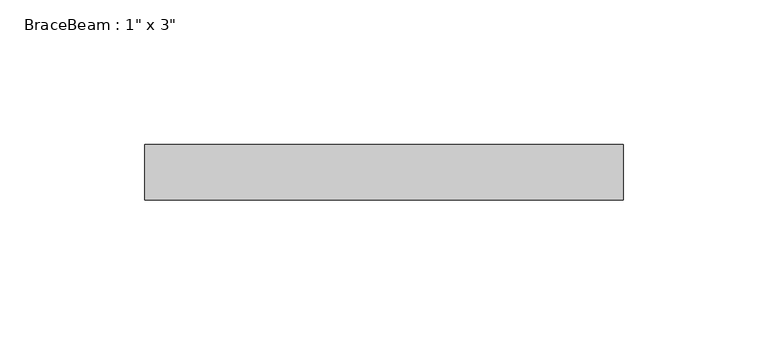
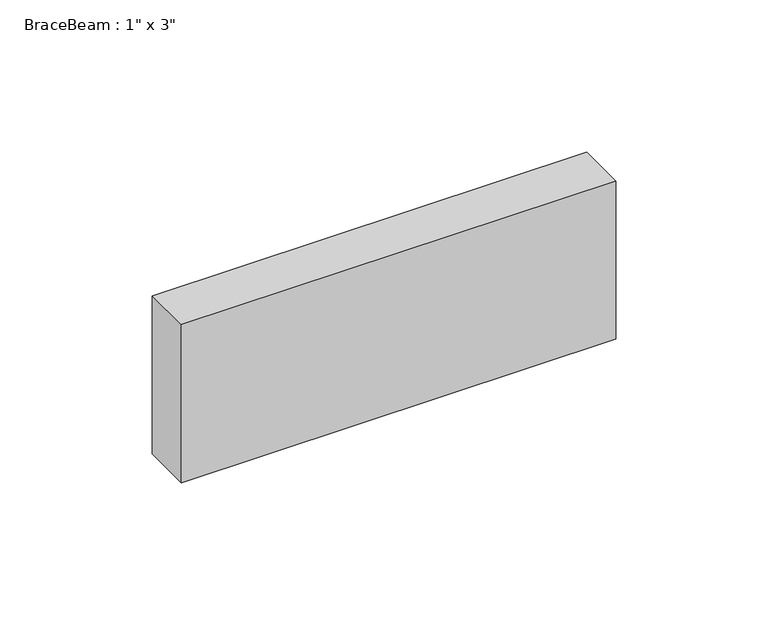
"""IFC4 building model written with IfcOpenShell, lengths in millimetres: beam geometry."""

from ifc_helpers import new_model, si_unit, frame, origin, place, context, project, spatial, polyline, outline, extrude, source, transform, mapped, element, save


def beam_2a418d08(model_context):
    return source(origin(), model_context, "Body", "SweptSolid", [
        extrude(outline(polyline([(-77.6553243, 9.525), (87.1803243, 9.525), (87.1803243, -9.525), (-77.6553243, -9.525), (-77.6553243, 9.525)])), frame((0.0, 0.0, -31.75), z_axis=(0.0, 0.0, 1.0), x_axis=(1.0, 0.0, 0.0)), (0.0, 0.0, 1.0), 63.5),
    ])


if __name__ == "__main__":
    model = new_model("IFC4")
    model_context = context("Model", 3, world=origin())
    ifc_project = project(units=[si_unit("LENGTHUNIT", "METRE", prefix="MILLI")], contexts=[model_context])
    site = spatial("IfcSite", under=ifc_project)
    building = spatial("IfcBuilding", under=site)
    placement = place(None, origin())
    beam_shape = beam_2a418d08(model_context)
    element("IfcBeam", 1, ObjectType="BraceBeam : 1\" x 3\"", at=placement, inside=building, context=model_context, shape_type="MappedRepresentation", body=[
        mapped(beam_shape, transform((0.0, 0.0, 0.0), x_axis=(1.0, 0.0, 0.0), y_axis=(0.0, 1.0, 0.0), z_axis=(0.0, 0.0, 1.0))),
    ])
    save(model, "model.ifc")
